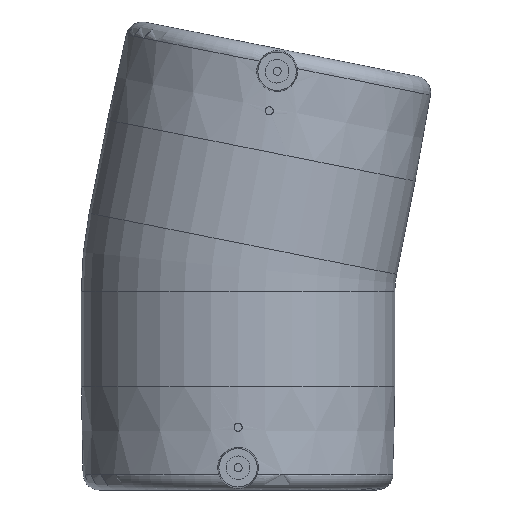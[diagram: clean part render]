
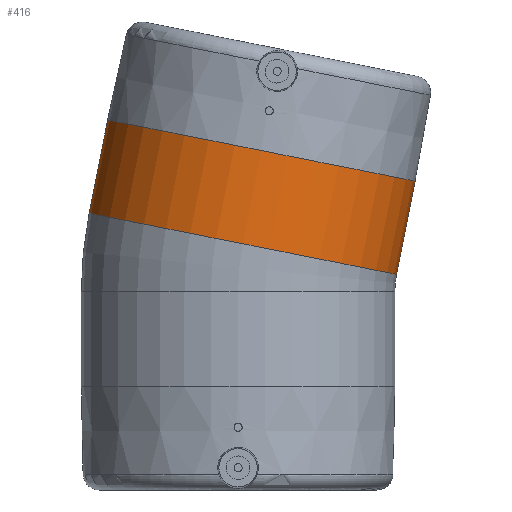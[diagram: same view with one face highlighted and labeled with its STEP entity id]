
A CAD part, front view. The second image highlights one B-rep face of the part: STEP entity #416.
In plain terms, the highlighted cylindrical face has radius 77.5 mm (diameter 155 mm), a full revolution.
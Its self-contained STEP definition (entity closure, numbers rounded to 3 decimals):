
#53=CYLINDRICAL_SURFACE('',#489,77.5);
#121=ORIENTED_EDGE('',*,*,#178,.T.);
#122=ORIENTED_EDGE('',*,*,#180,.T.);
#178=EDGE_CURVE('',#221,#221,#251,.F.);
#180=EDGE_CURVE('',#223,#223,#253,.T.);
#221=VERTEX_POINT('',#769);
#223=VERTEX_POINT('',#775);
#251=CIRCLE('',#486,77.5);
#253=CIRCLE('',#490,77.5);
#300=EDGE_LOOP('',(#121));
#301=EDGE_LOOP('',(#122));
#361=FACE_BOUND('',#300,.T.);
#362=FACE_BOUND('',#301,.T.);
#416=ADVANCED_FACE('',(#361,#362),#53,.T.);
#486=AXIS2_PLACEMENT_3D('',#768,#602,#603);
#489=AXIS2_PLACEMENT_3D('',#773,#608,#609);
#490=AXIS2_PLACEMENT_3D('',#774,#610,#611);
#602=DIRECTION('',(-0.195,0.,-0.981));
#603=DIRECTION('',(0.981,0.,-0.195));
#608=DIRECTION('',(0.195,0.,0.981));
#609=DIRECTION('',(0.981,0.,-0.195));
#610=DIRECTION('',(-0.195,0.,-0.981));
#611=DIRECTION('',(-0.981,0.,0.195));
#768=CARTESIAN_POINT('',(2.341,0.,11.769));
#769=CARTESIAN_POINT('',(78.352,0.,-3.35));
#773=CARTESIAN_POINT('',(2.341,0.,11.769));
#774=CARTESIAN_POINT('',(11.51,0.,57.866));
#775=CARTESIAN_POINT('',(-64.501,0.,72.986));
